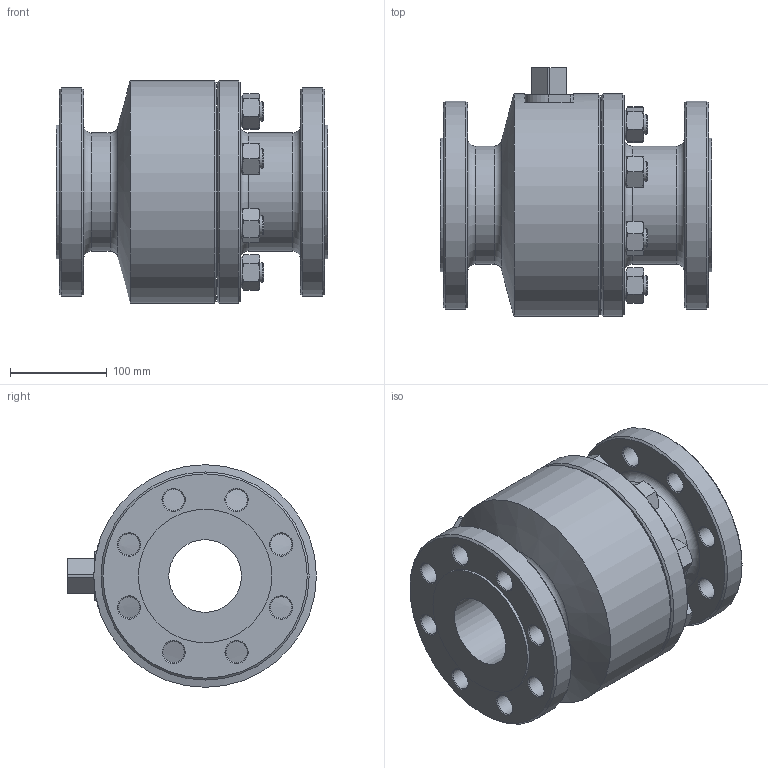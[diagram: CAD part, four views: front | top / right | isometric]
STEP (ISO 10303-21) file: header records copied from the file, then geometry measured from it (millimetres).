
FILE_DESCRIPTION((''),'2;1');
FILE_NAME('C:\Users\Bartek\Desktop\Nowy folder (2)\Nowy folder (22)\WK5b\WK5b DN80 PN63_Substitute_1.stp','2024-09-17T09:49:01',('Bartek'),(''),'Autodesk Inventor 2012','Autodesk Inventor 2012','');
FILE_SCHEMA(('AUTOMOTIVE_DESIGN { 1 0 10303 214 1 1 1 1 }'));
Length unit declared in the file: millimetre
Products named in the file (1): WK5b DN80 PN63_Substitute_1
Bounding box: 280 x 257 x 230 mm (x, y, z)
Volume: 6878131.8 mm3; surface area: 468969.3 mm2
Topology: 1 solids, 1 shells, 295 faces, 651 edges, 391 vertices
Faces by surface type: cone 144, plane 97, cylinder 50, torus 4
Full cylindrical faces by diameter (mm): 20 x8, 22 x16, 31 x8, 75 x1, 122 x2, 138 x2, 156 x1, 215 x2, 230 x2
Entity records: 7551 total; most frequent: CARTESIAN_POINT 1580, DIRECTION 1186, ORIENTED_EDGE 1066, AXIS2_PLACEMENT_3D 549, EDGE_CURVE 533, EDGE_LOOP 456, VERTEX_POINT 367, STYLED_ITEM 296
